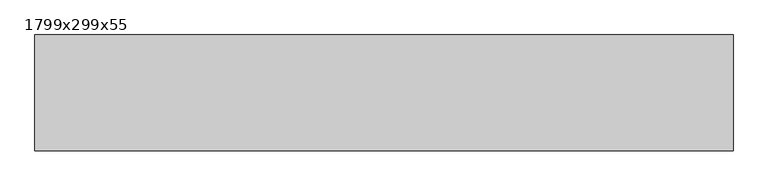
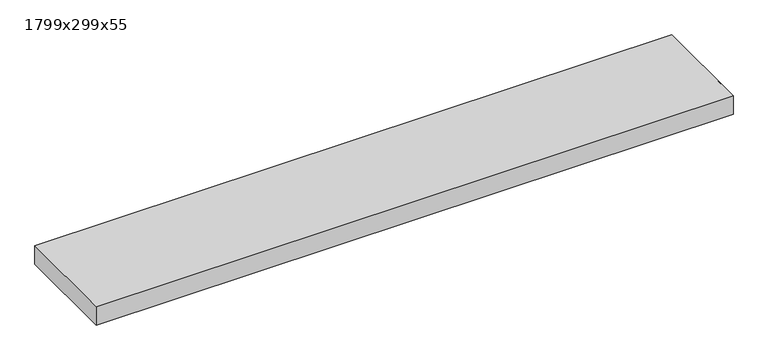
"""IFC4 building model written with IfcOpenShell, lengths in millimetres: proxy geometry, Texaa Panneaux Stereo fixés contre support par système magnétique séparés ou groupés au plafond : 1799x299x55."""

from ifc_helpers import new_model, si_unit, frame, origin, place, context, project, spatial, polyline, outline, extrude, faceted_brep, source, transform, mapped, element, save


def proxy_1799x299x55_0038d82a(model_context):
    return source(origin(), model_context, "Body", "SolidModel", [
        extrude(outline(polyline([(-898.5, -148.5), (-898.5, 148.5), (898.5, 148.5), (898.5, -148.5), (-898.5, -148.5)])), frame((0.0, 0.0, 11.0), z_axis=(0.0, 0.0, 1.0), x_axis=(1.0, 0.0, 0.0)), (0.0, 0.0, 1.0), 53.0),
        faceted_brep([(899.5, 149.5, 65.0), (-899.5, 149.5, 65.0), (-899.5, -149.5, 65.0), (899.5, -149.5, 65.0), (-899.5, -149.5, 10.0), (-899.5, 149.5, 10.0), (899.5, 149.5, 10.0), (899.5, -149.5, 10.0), (-849.5, 99.5, 10.0), (-849.5, -99.5, 10.0), (849.5, -99.5, 10.0), (849.5, 99.5, 10.0), (849.5, 99.5, 11.0), (-849.5, 99.5, 11.0), (849.5, -99.5, 11.0), (-849.5, -99.5, 11.0), (898.5, -148.5, 64.0), (-898.5, -148.5, 64.0), (-898.5, 148.5, 64.0), (898.5, 148.5, 64.0), (-898.5, -148.5, 11.0), (898.5, -148.5, 11.0), (898.5, 148.5, 11.0), (-898.5, 148.5, 11.0)], [[[0, 1, 2, 3]], [[4, 5, 6, 7], [8, 9, 10, 11]], [[4, 2, 1, 5]], [[5, 1, 0, 6]], [[3, 7, 6, 0]], [[2, 4, 7, 3]], [[8, 11, 12, 13]], [[11, 10, 14, 12]], [[10, 9, 15, 14]], [[13, 15, 9, 8]], [[16, 17, 18, 19]], [[20, 21, 22, 23], [12, 14, 15, 13]], [[23, 18, 17, 20]], [[22, 19, 18, 23]], [[19, 22, 21, 16]], [[20, 17, 16, 21]]]),
    ])


if __name__ == "__main__":
    model = new_model("IFC4")
    model_context = context("Model", 3, world=origin())
    ifc_project = project(units=[si_unit("LENGTHUNIT", "METRE", prefix="MILLI")], contexts=[model_context])
    site = spatial("IfcSite", under=ifc_project)
    building = spatial("IfcBuilding", under=site)
    placement = place(None, origin())
    proxy_1799x299x55_shape = proxy_1799x299x55_0038d82a(model_context)
    element("IfcBuildingElementProxy", 1, Name="Texaa Panneaux Stereo fixés contre support par système magnétique séparés ou groupés au plafond : 1799x299x55", ObjectType="Texaa Panneaux Stereo fixés contre support par système magnétique séparés ou groupés au plafond : 1799x299x55", at=placement, inside=building, context=model_context, shape_type="MappedRepresentation", body=[
        mapped(proxy_1799x299x55_shape, transform((0.0, 0.0, 0.0), x_axis=(1.0, 0.0, 0.0), y_axis=(0.0, 1.0, 0.0), z_axis=(0.0, 0.0, 1.0))),
    ])
    save(model, "model.ifc")
